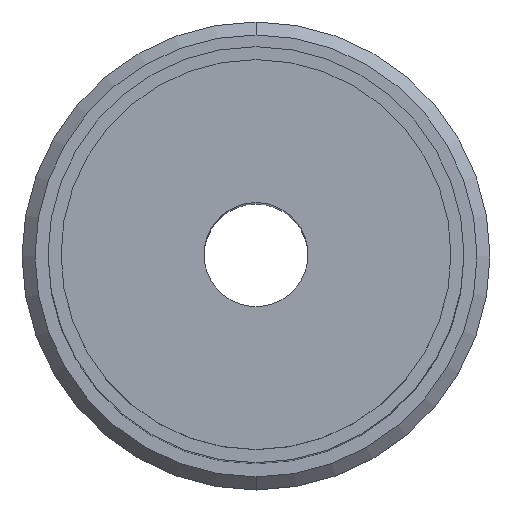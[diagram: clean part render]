
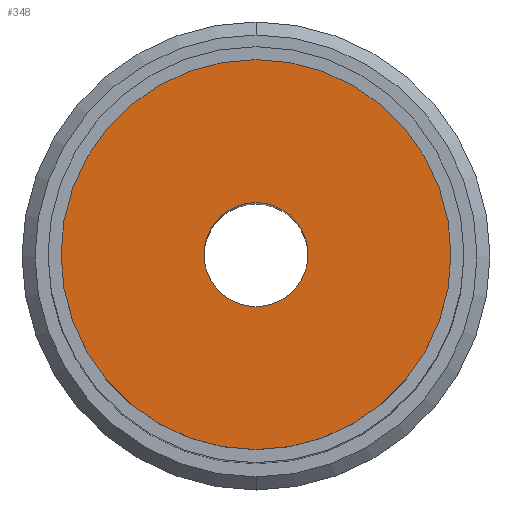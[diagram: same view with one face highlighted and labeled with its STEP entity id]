
A CAD part, top view. The second image highlights one B-rep face of the part: STEP entity #348.
In plain terms, the highlighted planar face has unit normal (0, 0, 1).
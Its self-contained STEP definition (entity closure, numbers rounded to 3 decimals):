
#178=VERTEX_POINT('',#498);
#216=EDGE_CURVE('',#178,#278,#544,.T.);
#278=VERTEX_POINT('',#612);
#340=VERTEX_POINT('',#681);
#346=EDGE_CURVE('',#278,#178,#688,.T.);
#348=ADVANCED_FACE('',(#690,#691),#692,.T.);
#366=EDGE_CURVE('',#340,#406,#711,.T.);
#406=VERTEX_POINT('',#755);
#422=EDGE_CURVE('',#406,#340,#776,.T.);
#498=CARTESIAN_POINT('',(0.,-4.0,0.0));
#544=CIRCLE('',#917,4.0);
#612=CARTESIAN_POINT('',(0.0,4.0,0.0));
#681=CARTESIAN_POINT('',(0.,-15.0,0.0));
#688=CIRCLE('',#1132,4.0);
#690=FACE_OUTER_BOUND('',#1134,.T.);
#691=FACE_BOUND('',#1135,.T.);
#692=PLANE('',#1136);
#711=CIRCLE('',#1162,15.0);
#755=CARTESIAN_POINT('',(0.0,15.0,0.0));
#776=CIRCLE('',#1276,15.0);
#917=AXIS2_PLACEMENT_3D('',#1462,#1463,#1464);
#1132=AXIS2_PLACEMENT_3D('',#1639,#1640,#1641);
#1134=EDGE_LOOP('',(#1643,#1644));
#1135=EDGE_LOOP('',(#1645,#1646));
#1136=AXIS2_PLACEMENT_3D('',#1647,#1648,#1649);
#1162=AXIS2_PLACEMENT_3D('',#1661,#1662,#1663);
#1276=AXIS2_PLACEMENT_3D('',#1760,#1761,#1762);
#1462=CARTESIAN_POINT('',(0.0,0.0,0.0));
#1463=DIRECTION('',(0.0,0.0,-1.0));
#1464=DIRECTION('',(0.0,1.0,0.0));
#1639=CARTESIAN_POINT('',(0.0,0.0,0.0));
#1640=DIRECTION('',(0.0,0.0,-1.0));
#1641=DIRECTION('',(0.0,1.0,0.0));
#1643=ORIENTED_EDGE('',*,*,#422,.F.);
#1644=ORIENTED_EDGE('',*,*,#366,.F.);
#1645=ORIENTED_EDGE('',*,*,#346,.T.);
#1646=ORIENTED_EDGE('',*,*,#216,.T.);
#1647=CARTESIAN_POINT('',(0.0,9.5,0.0));
#1648=DIRECTION('',(-0.0,0.0,1.0));
#1649=DIRECTION('',(0.0,-1.0,0.0));
#1661=CARTESIAN_POINT('',(0.0,0.0,0.0));
#1662=DIRECTION('',(0.0,0.0,-1.0));
#1663=DIRECTION('',(0.0,1.0,0.0));
#1760=CARTESIAN_POINT('',(0.0,0.0,0.0));
#1761=DIRECTION('',(0.0,0.0,-1.0));
#1762=DIRECTION('',(0.0,1.0,0.0));
